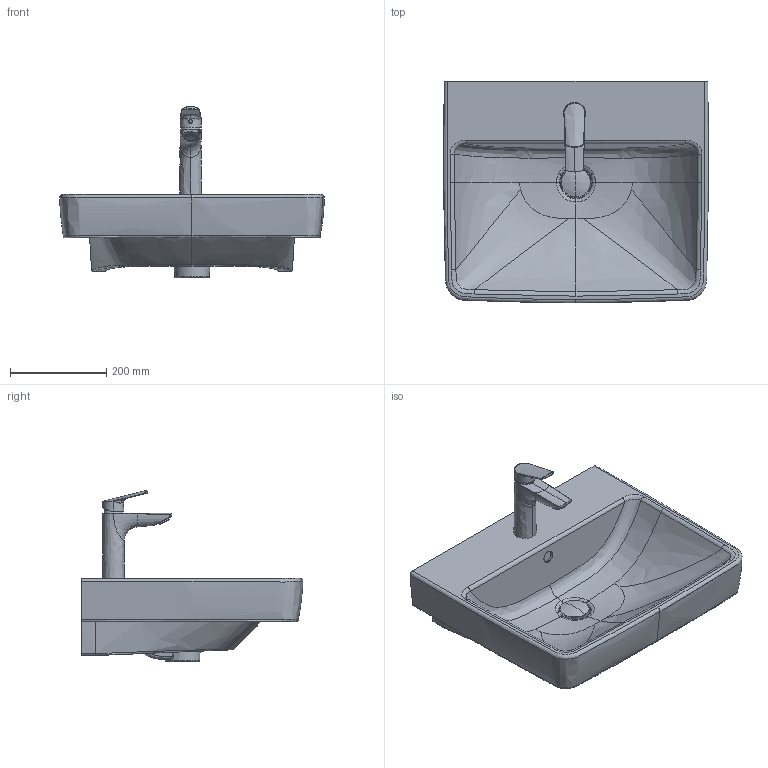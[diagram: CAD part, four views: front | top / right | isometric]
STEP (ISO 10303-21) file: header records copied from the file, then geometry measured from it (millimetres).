
FILE_DESCRIPTION(/* description */ (''),/* implementation_level */ '2;1');
FILE_NAME(/* name */ '237555',/* time_stamp */ '2021-10-12T13:35:58+02:00',/* author */ (''),/* organization */ (''),/* preprocessor_version */ 'ST-DEVELOPER v15',/* originating_system */ '',/* authorisation */ '');
FILE_SCHEMA (('AUTOMOTIVE_DESIGN'));
Length unit declared in the file: millimetre
Products named in the file (1): Document
Bounding box: 549.87 x 460.1 x 355.53 mm (x, y, z)
Volume: 11238984.1 mm3; surface area: 1008752.4 mm2
Topology: 6 solids, 9 shells, 503 faces, 1196 edges, 715 vertices
Faces by surface type: bspline 425, plane 78
Entity records: 104205 total; most frequent: CARTESIAN_POINT 96956, ORIENTED_EDGE 2368, EDGE_CURVE 1193, B_SPLINE_CURVE_WITH_KNOTS 907, VERTEX_POINT 715, EDGE_LOOP 528, ADVANCED_FACE 502, FACE_OUTER_BOUND 502
